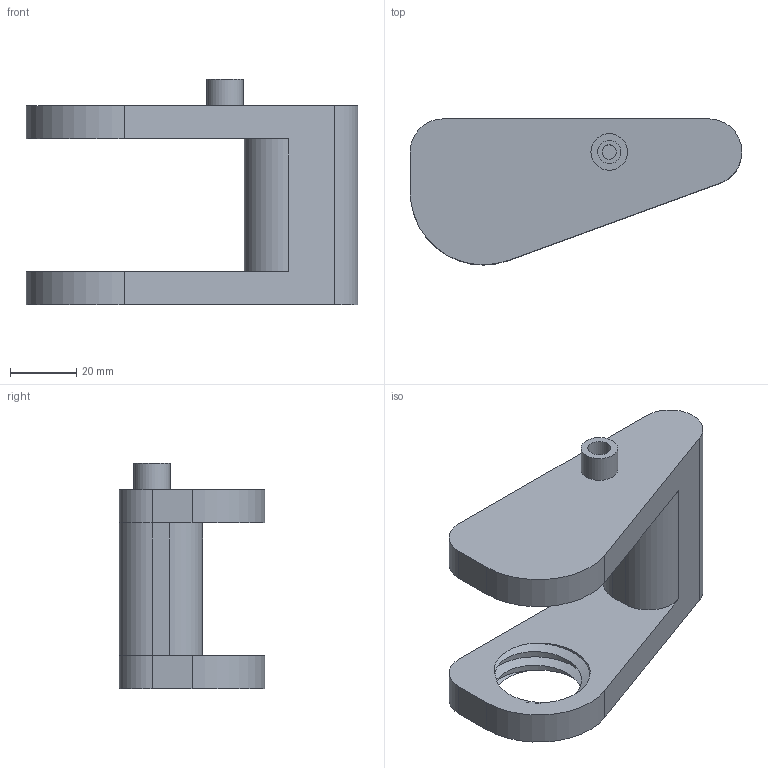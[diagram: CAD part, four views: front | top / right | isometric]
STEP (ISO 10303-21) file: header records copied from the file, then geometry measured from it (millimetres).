
FILE_DESCRIPTION(/* description */ ('STEP AP242 Edition 2','CAx-IF Rec.Pracs.---Representation and Presentation of Product Manufacturing Information (PMI)---4.0---2014-10-13','CAx-IF Rec.Pracs.---3D Tessellated Geometry---0.4---2014-09-14','2;1','CAx-IF Rec.Pracs.---User Defined Attributes---1.5---2016-08-15'),/* implementation_level */ '2;1');
FILE_NAME(/* name */ 'Assembly 1 - Desk Clamp',/* time_stamp */ '2026-06-23T19:13:02Z',/* author */ (''),/* organization */ (''),/* preprocessor_version */ 'ST-DEVELOPER v20',/* originating_system */ 'ONSHAPE BY PTC INC, 1.216',/* authorisation */ ' ');
FILE_SCHEMA (('AP242_MANAGED_MODEL_BASED_3D_ENGINEERING_MIM_LF { 1 0 10303 442 3 1 4 }'));
Length unit declared in the file: metre
Products named in the file (1): Desk Clamp
Bounding box: 99.98 x 44 x 68 mm (x, y, z)
Volume: 85759.2 mm3; surface area: 21151.4 mm2
Topology: 1 solids, 1 shells, 31 faces, 78 edges, 52 vertices
Faces by surface type: plane 18, cylinder 11, bspline 2
Full cylindrical faces by diameter (mm): 4.3 x1, 7 x1, 11 x1
Entity records: 1760 total; most frequent: CARTESIAN_POINT 990, ORIENTED_EDGE 150, DIRECTION 150, EDGE_CURVE 75, VERTEX_POINT 52, AXIS2_PLACEMENT_3D 52, LINE 46, VECTOR 46
